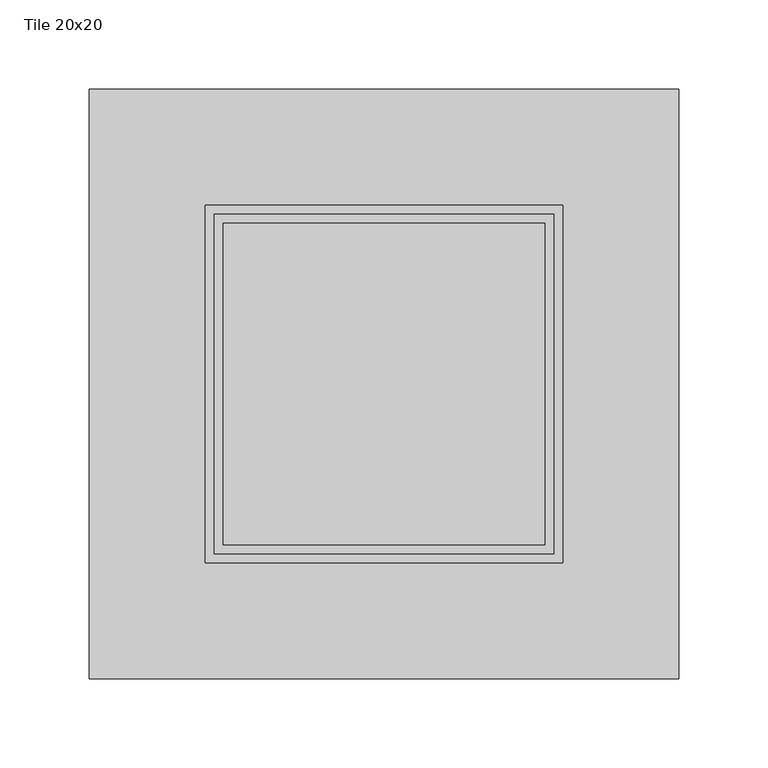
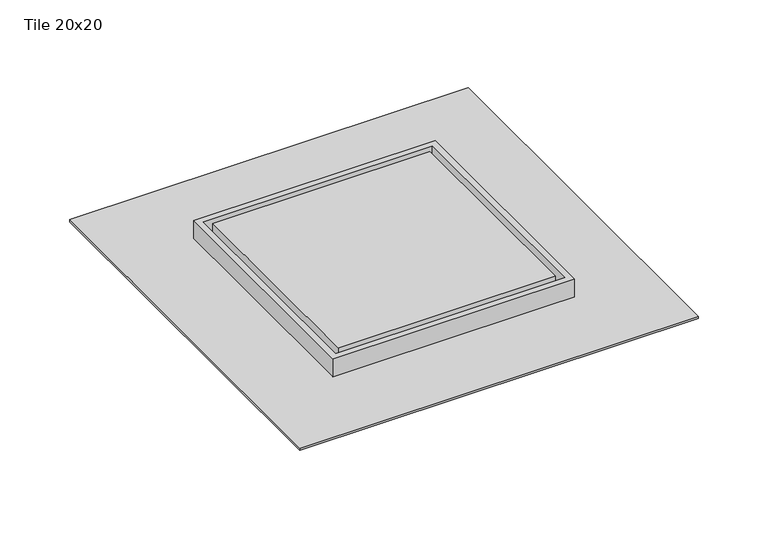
"""IFC4 building model written with IfcOpenShell, lengths in millimetres: sanitary terminal geometry, Z_DO_NOT_USE_NLRS_PF_52_UN_Aqua Jewels Quattro Tile Complete_Easydrain : Tile 20x20."""

from ifc_helpers import new_model, si_unit, frame, origin, place, context, project, spatial, polyline, outline, extrude, source, transform, mapped, element, save


def tile_20x20_2fca3c0a(model_context):
    return source(origin(), model_context, "Body", "SweptSolid", [
        extrude(outline(polyline([(170.0, 155.0), (170.0, -175.0), (-160.0, -175.0), (-160.0, 155.0), (170.0, 155.0)])), frame((0.0, 0.0, -18.0), z_axis=(0.0, 0.0, 1.0), x_axis=(1.0, 0.0, 0.0)), (0.0, 0.0, 1.0), 2.0),
        extrude(outline(polyline([(105.0, 90.0), (105.0, -110.0), (-95.0, -110.0), (-95.0, 90.0), (105.0, 90.0)])), frame((0.0, 0.0, -37.0), z_axis=(0.0, 0.0, 1.0), x_axis=(1.0, 0.0, 0.0)), (0.0, 0.0, 1.0), 20.0),
        extrude(outline(polyline([(105.0, 90.0), (105.0, -110.0), (-95.0, -110.0), (-95.0, 90.0), (105.0, 90.0)]), holes=[polyline([(100.0, 85.0), (-90.0, 85.0), (-90.0, -105.0), (100.0, -105.0), (100.0, 85.0)])]), frame((0.0, 0.0, -17.0), z_axis=(0.0, 0.0, 1.0), x_axis=(1.0, 0.0, 0.0)), (0.0, 0.0, 1.0), 17.0),
        extrude(outline(polyline([(95.0, 80.0), (95.0, -100.0), (-85.0, -100.0), (-85.0, 80.0), (95.0, 80.0)])), frame((0.0, 0.0, -17.0), z_axis=(0.0, 0.0, 1.0), x_axis=(1.0, 0.0, 0.0)), (0.0, 0.0, 1.0), 17.0),
        extrude(outline(polyline([(135.0, 120.0), (135.0, -140.0), (-125.0, -140.0), (-125.0, 120.0), (135.0, 120.0)])), frame((0.0, 0.0, -19.0), z_axis=(0.0, 0.0, 1.0), x_axis=(1.0, 0.0, 0.0)), (0.0, 0.0, 1.0), 2.0),
    ])


if __name__ == "__main__":
    model = new_model("IFC4")
    model_context = context("Model", 3, world=origin())
    ifc_project = project(units=[si_unit("LENGTHUNIT", "METRE", prefix="MILLI")], contexts=[model_context])
    site = spatial("IfcSite", under=ifc_project)
    building = spatial("IfcBuilding", under=site)
    placement = place(None, origin())
    tile_20x20_shape = tile_20x20_2fca3c0a(model_context)
    element("IfcSanitaryTerminal", 1, ObjectType="Z_DO_NOT_USE_NLRS_PF_52_UN_Aqua Jewels Quattro Tile Complete_Easydrain : Tile 20x20", at=placement, inside=building, context=model_context, shape_type="MappedRepresentation", body=[
        mapped(tile_20x20_shape, transform((0.0, 0.0, 0.0), x_axis=(1.0, 0.0, 0.0), y_axis=(0.0, 1.0, 0.0), z_axis=(0.0, 0.0, 1.0))),
    ])
    save(model, "model.ifc")
